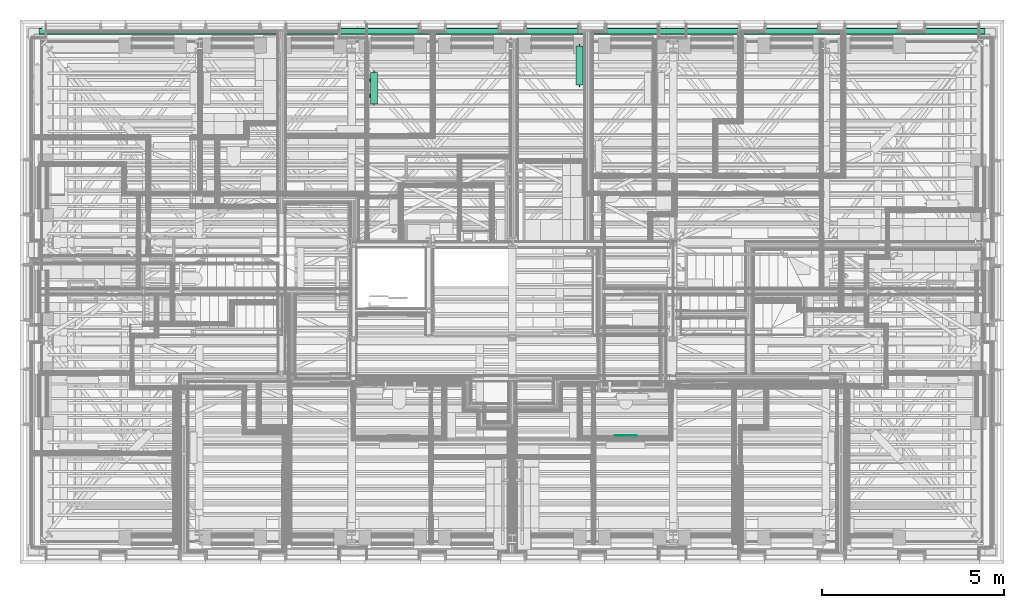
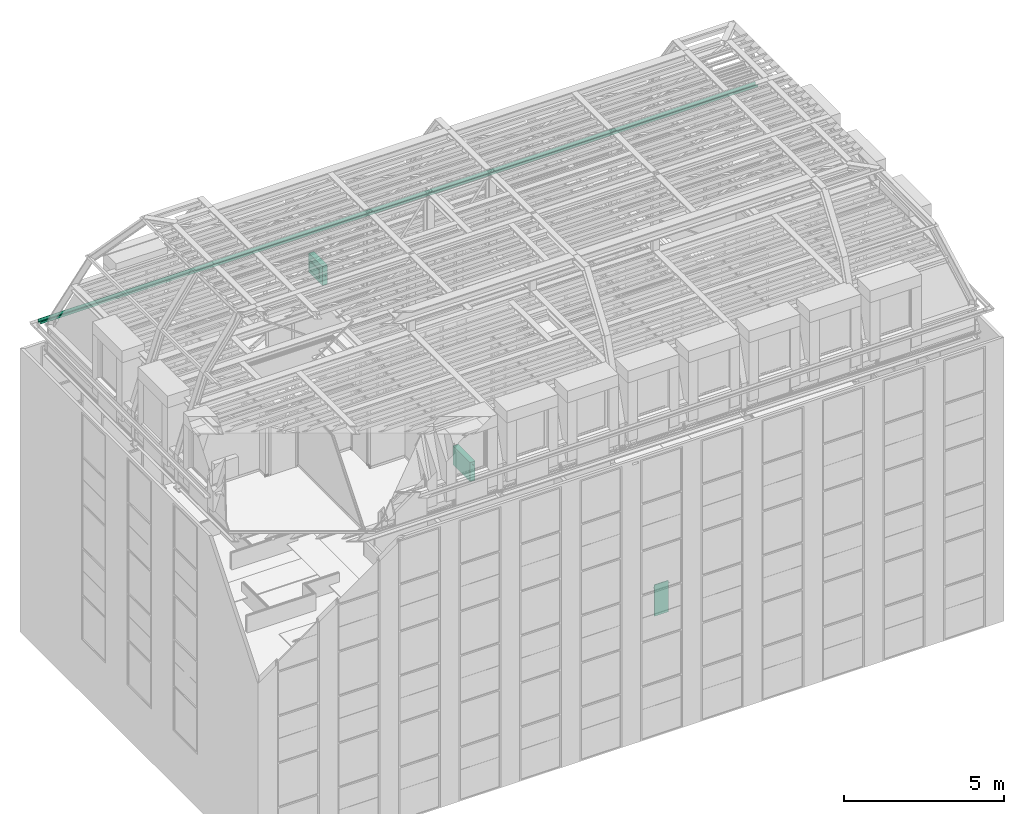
# One storey, part 164 of 183: 3 flow terminals, 1 flow fitting.
"""IFC2X3 building model written with IfcOpenShell, lengths in metres."""

from ifc_helpers import new_model, entity, si_unit, converted_unit, derived_unit, money_unit, direction, frame, origin_with_axes, place, context, subcontext, project, spatial, open_shell, faceted_brep, surface_model, material, type_object, element, save


model = new_model("IFC2X3")

# Units and contexts
model_context = context("Model", 3, precision=1e-05, world=origin_with_axes(), true_north=direction((0.0, 1.0)))
body_context = subcontext(model_context, "Body", "Model", "MODEL_VIEW", scale=1.0)
ifc_project = project(units=[si_unit("LENGTHUNIT", "METRE"), si_unit("AREAUNIT", "SQUARE_METRE"), si_unit("VOLUMEUNIT", "CUBIC_METRE"), si_unit("ABSORBEDDOSEUNIT", "GRAY"), si_unit("AMOUNTOFSUBSTANCEUNIT", "MOLE"), si_unit("DOSEEQUIVALENTUNIT", "SIEVERT"), si_unit("ELECTRICCAPACITANCEUNIT", "FARAD"), si_unit("ELECTRICCHARGEUNIT", "COULOMB"), si_unit("ELECTRICCONDUCTANCEUNIT", "SIEMENS"), si_unit("ELECTRICCURRENTUNIT", "AMPERE"), si_unit("ELECTRICRESISTANCEUNIT", "OHM"), si_unit("ELECTRICVOLTAGEUNIT", "VOLT"), si_unit("ENERGYUNIT", "JOULE"), si_unit("FORCEUNIT", "NEWTON"), si_unit("FREQUENCYUNIT", "HERTZ"), si_unit("ILLUMINANCEUNIT", "LUX"), si_unit("INDUCTANCEUNIT", "HENRY"), si_unit("LUMINOUSFLUXUNIT", "LUMEN"), si_unit("LUMINOUSINTENSITYUNIT", "CANDELA"), si_unit("MAGNETICFLUXDENSITYUNIT", "TESLA"), si_unit("MAGNETICFLUXUNIT", "WEBER"), si_unit("MASSUNIT", "GRAM"), converted_unit("PLANEANGLEUNIT", "degree", entity("IfcReal", 0.0174532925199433), si_unit("PLANEANGLEUNIT", "RADIAN"), dimensions=[0, 0, 0, 0, 0, 0, 0]), si_unit("POWERUNIT", "WATT"), si_unit("PRESSUREUNIT", "PASCAL"), si_unit("RADIOACTIVITYUNIT", "BECQUEREL"), si_unit("SOLIDANGLEUNIT", "STERADIAN"), si_unit("THERMODYNAMICTEMPERATUREUNIT", "KELVIN"), si_unit("TIMEUNIT", "SECOND"), derived_unit("ACCELERATIONUNIT", [(si_unit("LENGTHUNIT", "METRE"), 1), (si_unit("TIMEUNIT", "SECOND"), -2)]), derived_unit("ANGULARVELOCITYUNIT", [(converted_unit("PLANEANGLEUNIT", "degree", entity("IfcReal", 0.0174532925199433), si_unit("PLANEANGLEUNIT", "RADIAN"), dimensions=[0, 0, 0, 0, 0, 0, 0]), 1), (si_unit("TIMEUNIT", "SECOND"), -1)]), derived_unit("CURVATUREUNIT", [(converted_unit("PLANEANGLEUNIT", "degree", entity("IfcReal", 0.0174532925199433), si_unit("PLANEANGLEUNIT", "RADIAN"), dimensions=[0, 0, 0, 0, 0, 0, 0]), 1), (si_unit("LENGTHUNIT", "METRE"), -1)]), derived_unit("DYNAMICVISCOSITYUNIT", [(si_unit("PRESSUREUNIT", "PASCAL"), 1), (si_unit("TIMEUNIT", "SECOND"), 1)]), derived_unit("HEATFLUXDENSITYUNIT", [(si_unit("POWERUNIT", "WATT"), 1), (si_unit("LENGTHUNIT", "METRE"), -2)]), derived_unit("HEATINGVALUEUNIT", [(si_unit("ENERGYUNIT", "JOULE"), 1), (si_unit("MASSUNIT", "GRAM"), -1)]), derived_unit("INTEGERCOUNTRATEUNIT", [(si_unit("TIMEUNIT", "SECOND"), -1)]), derived_unit("IONCONCENTRATIONUNIT", [(si_unit("MASSUNIT", "GRAM"), 1), (si_unit("VOLUMEUNIT", "CUBIC_METRE"), -1)]), derived_unit("ISOTHERMALMOISTURECAPACITYUNIT", [(si_unit("VOLUMEUNIT", "CUBIC_METRE"), 1), (si_unit("MASSUNIT", "GRAM"), -1)]), derived_unit("KINEMATICVISCOSITYUNIT", [(si_unit("AREAUNIT", "SQUARE_METRE"), 1), (si_unit("TIMEUNIT", "SECOND"), -1)]), derived_unit("LINEARFORCEUNIT", [(si_unit("FORCEUNIT", "NEWTON"), 1), (si_unit("LENGTHUNIT", "METRE"), -1)]), derived_unit("LINEARMOMENTUNIT", [(si_unit("FORCEUNIT", "NEWTON"), 1), (si_unit("LENGTHUNIT", "METRE"), -1)]), derived_unit("LINEARSTIFFNESSUNIT", [(si_unit("FORCEUNIT", "NEWTON"), 1), (si_unit("LENGTHUNIT", "METRE"), -1)]), derived_unit("LINEARVELOCITYUNIT", [(si_unit("LENGTHUNIT", "METRE"), 1), (si_unit("TIMEUNIT", "SECOND"), -1)]), derived_unit("LUMINOUSINTENSITYDISTRIBUTIONUNIT", [(si_unit("LUMINOUSINTENSITYUNIT", "CANDELA"), 1), (si_unit("LUMINOUSFLUXUNIT", "LUMEN"), -1)]), derived_unit("MASSDENSITYUNIT", [(si_unit("MASSUNIT", "GRAM"), 1), (si_unit("VOLUMEUNIT", "CUBIC_METRE"), -1)]), derived_unit("MASSFLOWRATEUNIT", [(si_unit("MASSUNIT", "GRAM"), 1), (si_unit("TIMEUNIT", "SECOND"), -1)]), derived_unit("MASSPERLENGTHUNIT", [(si_unit("MASSUNIT", "GRAM"), 1), (si_unit("LENGTHUNIT", "METRE"), -1)]), derived_unit("MODULUSOFELASTICITYUNIT", [(si_unit("FORCEUNIT", "NEWTON"), 1), (si_unit("AREAUNIT", "SQUARE_METRE"), -1)]), derived_unit("MODULUSOFLINEARSUBGRADEREACTIONUNIT", [(si_unit("FORCEUNIT", "NEWTON"), 1), (si_unit("LENGTHUNIT", "METRE"), -2)]), derived_unit("MODULUSOFROTATIONALSUBGRADEREACTIONUNIT", [(si_unit("FORCEUNIT", "NEWTON"), 1), (si_unit("LENGTHUNIT", "METRE"), 1)]), derived_unit("MODULUSOFSUBGRADEREACTIONUNIT", [(si_unit("FORCEUNIT", "NEWTON"), 1), (si_unit("VOLUMEUNIT", "CUBIC_METRE"), -1)]), derived_unit("MOISTUREDIFFUSIVITYUNIT", [(si_unit("VOLUMEUNIT", "CUBIC_METRE"), 1), (si_unit("TIMEUNIT", "SECOND"), -1)]), derived_unit("MOLECULARWEIGHTUNIT", [(si_unit("MASSUNIT", "GRAM"), 1), (si_unit("AMOUNTOFSUBSTANCEUNIT", "MOLE"), -1)]), derived_unit("PLANARFORCEUNIT", [(si_unit("FORCEUNIT", "NEWTON"), 1), (si_unit("LENGTHUNIT", "METRE"), -2)]), derived_unit("ROTATIONALFREQUENCYUNIT", [(si_unit("TIMEUNIT", "SECOND"), -1)]), derived_unit("ROTATIONALMASSUNIT", [(si_unit("MASSUNIT", "GRAM"), 1), (si_unit("LENGTHUNIT", "METRE"), 2)]), derived_unit("ROTATIONALSTIFFNESSUNIT", [(si_unit("FORCEUNIT", "NEWTON"), 1), (si_unit("LENGTHUNIT", "METRE"), 1), (converted_unit("PLANEANGLEUNIT", "degree", entity("IfcReal", 0.0174532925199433), si_unit("PLANEANGLEUNIT", "RADIAN"), dimensions=[0, 0, 0, 0, 0, 0, 0]), -1)]), derived_unit("SECTIONAREAINTEGRALUNIT", [(si_unit("LENGTHUNIT", "METRE"), 5)]), derived_unit("SECTIONMODULUSUNIT", [(si_unit("LENGTHUNIT", "METRE"), 3)]), derived_unit("SHEARMODULUSUNIT", [(si_unit("FORCEUNIT", "NEWTON"), 1), (si_unit("AREAUNIT", "SQUARE_METRE"), -1)]), derived_unit("SOUNDPOWERUNIT", [(si_unit("ENERGYUNIT", "JOULE"), 1), (si_unit("TIMEUNIT", "SECOND"), -1)]), derived_unit("SPECIFICHEATCAPACITYUNIT", [(si_unit("FORCEUNIT", "NEWTON"), 1), (si_unit("MASSUNIT", "GRAM"), -1), (si_unit("THERMODYNAMICTEMPERATUREUNIT", "KELVIN"), -1)]), derived_unit("TEMPERATUREGRADIENTUNIT", [(si_unit("THERMODYNAMICTEMPERATUREUNIT", "KELVIN"), 1), (si_unit("LENGTHUNIT", "METRE"), -1)]), derived_unit("THERMALADMITTANCEUNIT", [(si_unit("POWERUNIT", "WATT"), 1), (si_unit("AREAUNIT", "SQUARE_METRE"), -1), (si_unit("THERMODYNAMICTEMPERATUREUNIT", "KELVIN"), -1)]), derived_unit("THERMALCONDUCTANCEUNIT", [(si_unit("POWERUNIT", "WATT"), 1), (si_unit("LENGTHUNIT", "METRE"), -1), (si_unit("THERMODYNAMICTEMPERATUREUNIT", "KELVIN"), -1)]), derived_unit("THERMALEXPANSIONCOEFFICIENTUNIT", [(si_unit("THERMODYNAMICTEMPERATUREUNIT", "KELVIN"), -1)]), derived_unit("THERMALRESISTANCEUNIT", [(si_unit("AREAUNIT", "SQUARE_METRE"), 1), (si_unit("POWERUNIT", "WATT"), -1)]), derived_unit("THERMALTRANSMITTANCEUNIT", [(si_unit("POWERUNIT", "WATT"), 1), (si_unit("AREAUNIT", "SQUARE_METRE"), -1), (si_unit("THERMODYNAMICTEMPERATUREUNIT", "KELVIN"), -1)]), derived_unit("TORQUEUNIT", [(si_unit("FORCEUNIT", "NEWTON"), 1), (si_unit("LENGTHUNIT", "METRE"), 1)]), derived_unit("VAPORPERMEABILITYUNIT", [(si_unit("MASSUNIT", "GRAM"), 1), (si_unit("TIMEUNIT", "SECOND"), -1)]), derived_unit("VOLUMETRICFLOWRATEUNIT", [(si_unit("VOLUMEUNIT", "CUBIC_METRE"), 1), (si_unit("TIMEUNIT", "SECOND"), -1)]), derived_unit("WARPINGCONSTANTUNIT", [(si_unit("LENGTHUNIT", "METRE"), 6)]), derived_unit("WARPINGMOMENTUNIT", [(si_unit("FORCEUNIT", "NEWTON"), 1), (si_unit("LENGTHUNIT", "METRE"), 2)]), money_unit("GBP")], contexts=[model_context])

# Site, building, storey
site_placement = place(None, origin_with_axes())
site = spatial("IfcSite", under=ifc_project, at=site_placement, Name="Site", CompositionType="ELEMENT")
building_placement = place(site_placement, origin_with_axes())
building = spatial("IfcBuilding", under=site, at=building_placement, Name="Building01", CompositionType="ELEMENT")
storey_placement = place(building_placement, frame((0.0, 0.0, 5.15), z_axis=(0.0, 0.0, 1.0), x_axis=(1.0, 0.0, 0.0)))
storey = spatial("IfcBuildingStorey", under=building, at=storey_placement, Name="1F", CompositionType="ELEMENT", Elevation=5.15)

# Flow fitting
ifc_material_1 = material(Name="A_BSUK_RainwaterDrainageSystems")
pipe_fitting_type = type_object("IfcPipeFittingType", Name="A-RainwaterDrainageSystems-GutterStraight", PredefinedType="NOTDEFINED")
flow_fitting_placement = place(storey_placement, frame((0.514653, 14.496848, 10.629268), z_axis=(0.0, 0.0, 1.0), x_axis=(1.0, 0.0, 0.0)))
element("IfcFlowFitting", 1, at=flow_fitting_placement, inside=storey, type_object=pipe_fitting_type, material=ifc_material_1, Name="A-RainwaterDrainageSystems-GutterStraight", ObjectType="A-RainwaterDrainageSystems-GutterStraight", context=body_context, shape_type="Brep", body=[
    faceted_brep([(25.951001, 0.0, 0.100732), (1e-06, 0.0, 0.100732), (1e-06, 0.0, 0.099144), (25.951001, 0.0, 0.099145), (25.951001, 0.005654, 0.099145), (1e-06, 0.005654, 0.099144), (1e-06, 0.018707, 0.0), (25.951001, 0.018707, 0.0), (1e-06, 0.170099, 0.0), (25.951001, 0.170099, 0.0), (1e-06, 0.183152, 0.099144), (25.951001, 0.183152, 0.099145), (1e-06, 0.188806, 0.099144), (25.951001, 0.188806, 0.099145), (1e-06, 0.188806, 0.100732), (25.951001, 0.188806, 0.100732), (1e-06, 0.18176, 0.100732), (25.951001, 0.18176, 0.100732), (1e-06, 0.168707, 0.001588), (25.951001, 0.168707, 0.001588), (1e-06, 0.020099, 0.001588), (25.951001, 0.020099, 0.001588), (1e-06, 0.007047, 0.100732), (25.951001, 0.007047, 0.100732)], [[[0, 1, 2, 3]], [[4, 5, 6, 7]], [[7, 6, 8, 9]], [[9, 8, 10, 11]], [[11, 10, 12, 13]], [[13, 12, 14, 15]], [[15, 14, 16, 17]], [[17, 16, 18, 19]], [[19, 18, 20, 21]], [[21, 20, 22, 23]], [[23, 22, 1, 0]], [[3, 4, 7, 9, 11, 13, 15, 17, 19, 21, 23, 0]], [[3, 2, 5, 4]], [[1, 22, 20, 18, 16, 14, 12, 10, 8, 6, 5, 2]]]),
])

# Space
space_1_placement = place(storey_placement, frame((11.375, 10.415, 0.017975), z_axis=(0.0, 0.0, 1.0), x_axis=(1.0, 0.0, 0.0)))
space_1 = spatial("IfcSpace", under=storey, at=space_1_placement, Name="k/d/l", CompositionType="ELEMENT", InteriorOrExteriorSpace="NOTDEFINED")

# Flow terminal
ifc_material_2 = material(Name="M_BSUK_Ventilation")
space_heater_type_1 = type_object("IfcSpaceHeaterType", Name="M-BmvRadiatorpanel-Panel", PredefinedType="NOTDEFINED")
flow_terminal_1_placement = place(storey_placement, frame((15.337882, 14.187, 0.665), z_axis=(0.0, 0.0, 1.0), x_axis=(0.0, -1.0, 0.0)))
element("IfcFlowTerminal", 2, at=flow_terminal_1_placement, inside=space_1, type_object=space_heater_type_1, material=ifc_material_2, Name="M-BmvRadiatorpanel-Panel", ObjectType="M-BmvRadiatorpanel-Panel", context=body_context, shape_type="SurfaceModel", body=[
    surface_model("IfcShellBasedSurfaceModel", [(1.069, -0.0925, 0.365), (1.069, 0.0925, 0.365), (0.0, 0.0925, 0.365), (0.0, -0.0925, 0.365), (1.069, -0.0925, -0.365), (1.069, 0.0925, -0.365), (0.0, -0.0925, -0.365), (0.0, 0.0925, -0.365), (0.2345, 0.12025, 0.175), (0.8345, 0.12025, 0.175), (0.8345, 0.14525, 0.175), (0.2345, 0.14525, 0.175), (0.8345, 0.14525, -0.175), (0.2345, 0.14525, -0.175), (0.8345, 0.12025, -0.175), (0.2345, 0.12025, -0.175), (0.3245, 0.0925, 0.0775), (0.3245, 0.12025, 0.0775), (0.341721, 0.12025, 0.080925), (0.341721, 0.0925, 0.080925), (0.35632, 0.12025, 0.09068), (0.35632, 0.0925, 0.09068), (0.366075, 0.12025, 0.105279), (0.366075, 0.0925, 0.105279), (0.3695, 0.12025, 0.1225), (0.3695, 0.0925, 0.1225), (0.366075, 0.12025, 0.139721), (0.366075, 0.0925, 0.139721), (0.35632, 0.12025, 0.15432), (0.35632, 0.0925, 0.15432), (0.341721, 0.12025, 0.164075), (0.341721, 0.0925, 0.164075), (0.3245, 0.12025, 0.1675), (0.3245, 0.0925, 0.1675), (0.307279, 0.12025, 0.164075), (0.307279, 0.0925, 0.164075), (0.29268, 0.12025, 0.15432), (0.29268, 0.0925, 0.15432), (0.282925, 0.12025, 0.139721), (0.282925, 0.0925, 0.139721), (0.2795, 0.12025, 0.1225), (0.2795, 0.0925, 0.1225), (0.282925, 0.12025, 0.105279), (0.282925, 0.0925, 0.105279), (0.29268, 0.12025, 0.09068), (0.29268, 0.0925, 0.09068), (0.307279, 0.12025, 0.080925), (0.307279, 0.0925, 0.080925), (0.7445, 0.0925, 0.0775), (0.7445, 0.12025, 0.0775), (0.761721, 0.12025, 0.080925), (0.761721, 0.0925, 0.080925), (0.77632, 0.12025, 0.09068), (0.77632, 0.0925, 0.09068), (0.786075, 0.12025, 0.105279), (0.786075, 0.0925, 0.105279), (0.7895, 0.12025, 0.1225), (0.7895, 0.0925, 0.1225), (0.786075, 0.12025, 0.139721), (0.786075, 0.0925, 0.139721), (0.77632, 0.12025, 0.15432), (0.77632, 0.0925, 0.15432), (0.761721, 0.12025, 0.164075), (0.761721, 0.0925, 0.164075), (0.7445, 0.12025, 0.1675), (0.7445, 0.0925, 0.1675), (0.727279, 0.12025, 0.164075), (0.727279, 0.0925, 0.164075), (0.71268, 0.12025, 0.15432), (0.71268, 0.0925, 0.15432), (0.702925, 0.12025, 0.139721), (0.702925, 0.0925, 0.139721), (0.6995, 0.12025, 0.1225), (0.6995, 0.0925, 0.1225), (0.702925, 0.12025, 0.105279), (0.702925, 0.0925, 0.105279), (0.71268, 0.12025, 0.09068), (0.71268, 0.0925, 0.09068), (0.727279, 0.12025, 0.080925), (0.727279, 0.0925, 0.080925), (-0.05, 0.0, -0.0225), (0.0, 0.0, -0.0225), (0.0, -0.004784, -0.021548), (-0.05, -0.004784, -0.021548), (0.0, -0.008839, -0.018839), (-0.05, -0.008839, -0.018839), (0.0, -0.011548, -0.014784), (-0.05, -0.011548, -0.014784), (0.0, -0.0125, -0.01), (-0.05, -0.0125, -0.01), (0.0, -0.011548, -0.005216), (-0.05, -0.011548, -0.005216), (0.0, -0.008839, -0.001161), (-0.05, -0.008839, -0.001161), (0.0, -0.004784, 0.001548), (-0.05, -0.004784, 0.001548), (0.0, 0.0, 0.0025), (-0.05, 0.0, 0.0025), (0.0, 0.004784, 0.001548), (-0.05, 0.004784, 0.001548), (0.0, 0.008839, -0.001161), (-0.05, 0.008839, -0.001161), (0.0, 0.011548, -0.005216), (-0.05, 0.011548, -0.005216), (0.0, 0.0125, -0.01), (-0.05, 0.0125, -0.01), (0.0, 0.011548, -0.014784), (-0.05, 0.011548, -0.014784), (0.0, 0.008839, -0.018839), (-0.05, 0.008839, -0.018839), (0.0, 0.004784, -0.021548), (-0.05, 0.004784, -0.021548), (1.119, 0.0, 0.2525), (1.069, 0.0, 0.2525), (1.069, 0.004784, 0.253452), (1.119, 0.004784, 0.253452), (1.069, 0.008839, 0.256161), (1.119, 0.008839, 0.256161), (1.069, 0.011548, 0.260216), (1.119, 0.011548, 0.260216), (1.069, 0.0125, 0.265), (1.119, 0.0125, 0.265), (1.069, 0.011548, 0.269784), (1.119, 0.011548, 0.269784), (1.069, 0.008839, 0.273839), (1.119, 0.008839, 0.273839), (1.069, 0.004784, 0.276548), (1.119, 0.004784, 0.276548), (1.069, 0.0, 0.2775), (1.119, 0.0, 0.2775), (1.069, -0.004784, 0.276548), (1.119, -0.004784, 0.276548), (1.069, -0.008839, 0.273839), (1.119, -0.008839, 0.273839), (1.069, -0.011548, 0.269784), (1.119, -0.011548, 0.269784), (1.069, -0.0125, 0.265), (1.119, -0.0125, 0.265), (1.069, -0.011548, 0.260216), (1.119, -0.011548, 0.260216), (1.069, -0.008839, 0.256161), (1.119, -0.008839, 0.256161), (1.069, -0.004784, 0.253452), (1.119, -0.004784, 0.253452)], [open_shell([[[0, 1, 2, 3]], [[4, 5, 1, 0]], [[6, 7, 5, 4]], [[3, 2, 7, 6]], [[1, 5, 7, 2]], [[3, 6, 4, 0]], [[8, 9, 10, 11]], [[11, 10, 12, 13]], [[13, 12, 14, 15]], [[15, 14, 9, 8]], [[9, 14, 12, 10]], [[11, 13, 15, 8]], [[16, 17, 18, 19]], [[19, 18, 20, 21]], [[21, 20, 22, 23]], [[23, 22, 24, 25]], [[25, 24, 26, 27]], [[27, 26, 28, 29]], [[29, 28, 30, 31]], [[31, 30, 32, 33]], [[33, 32, 34, 35]], [[35, 34, 36, 37]], [[37, 36, 38, 39]], [[39, 38, 40, 41]], [[41, 40, 42, 43]], [[43, 42, 44, 45]], [[45, 44, 46, 47]], [[47, 46, 17, 16]], [[48, 49, 50, 51]], [[51, 50, 52, 53]], [[53, 52, 54, 55]], [[55, 54, 56, 57]], [[57, 56, 58, 59]], [[59, 58, 60, 61]], [[61, 60, 62, 63]], [[63, 62, 64, 65]], [[65, 64, 66, 67]], [[67, 66, 68, 69]], [[69, 68, 70, 71]], [[71, 70, 72, 73]], [[73, 72, 74, 75]], [[75, 74, 76, 77]], [[77, 76, 78, 79]], [[79, 78, 49, 48]], [[80, 81, 82, 83]], [[83, 82, 84, 85]], [[85, 84, 86, 87]], [[87, 86, 88, 89]], [[89, 88, 90, 91]], [[91, 90, 92, 93]], [[93, 92, 94, 95]], [[95, 94, 96, 97]], [[97, 96, 98, 99]], [[99, 98, 100, 101]], [[101, 100, 102, 103]], [[103, 102, 104, 105]], [[105, 104, 106, 107]], [[107, 106, 108, 109]], [[109, 108, 110, 111]], [[111, 110, 81, 80]], [[112, 113, 114, 115]], [[115, 114, 116, 117]], [[117, 116, 118, 119]], [[119, 118, 120, 121]], [[121, 120, 122, 123]], [[123, 122, 124, 125]], [[125, 124, 126, 127]], [[127, 126, 128, 129]], [[129, 128, 130, 131]], [[131, 130, 132, 133]], [[133, 132, 134, 135]], [[135, 134, 136, 137]], [[137, 136, 138, 139]], [[139, 138, 140, 141]], [[141, 140, 142, 143]], [[143, 142, 113, 112]]])]),
])

# Space
space_2_placement = place(storey_placement, frame((1.009939, 13.890379, 9.81), z_axis=(0.0, 0.0, 1.0), x_axis=(0.0, -1.0, 0.0)))
space_2 = spatial("IfcSpace", under=storey, at=space_2_placement, Name="26", CompositionType="ELEMENT", InteriorOrExteriorSpace="NOTDEFINED")

# Flow terminal
flow_terminal_2_placement = place(storey_placement, frame((9.705274, 12.601764, 10.445), z_axis=(0.0, 0.0, 1.0), x_axis=(0.0, 1.0, 0.0)))
element("IfcFlowTerminal", 3, at=flow_terminal_2_placement, inside=space_2, type_object=space_heater_type_1, material=ifc_material_2, Name="M-BmvRadiatorpanel-Panel", ObjectType="M-BmvRadiatorpanel-Panel", context=body_context, shape_type="SurfaceModel", body=[
    surface_model("IfcShellBasedSurfaceModel", [(0.865, -0.0925, 0.365), (0.865, 0.0925, 0.365), (0.0, 0.0925, 0.365), (0.0, -0.0925, 0.365), (0.865, -0.0925, -0.365), (0.865, 0.0925, -0.365), (0.0, -0.0925, -0.365), (0.0, 0.0925, -0.365), (0.1325, 0.12025, 0.175), (0.7325, 0.12025, 0.175), (0.7325, 0.14525, 0.175), (0.1325, 0.14525, 0.175), (0.7325, 0.14525, -0.175), (0.1325, 0.14525, -0.175), (0.7325, 0.12025, -0.175), (0.1325, 0.12025, -0.175), (0.2225, 0.0925, 0.0775), (0.2225, 0.12025, 0.0775), (0.239721, 0.12025, 0.080925), (0.239721, 0.0925, 0.080925), (0.25432, 0.12025, 0.09068), (0.25432, 0.0925, 0.09068), (0.264075, 0.12025, 0.105279), (0.264075, 0.0925, 0.105279), (0.2675, 0.12025, 0.1225), (0.2675, 0.0925, 0.1225), (0.264075, 0.12025, 0.139721), (0.264075, 0.0925, 0.139721), (0.25432, 0.12025, 0.15432), (0.25432, 0.0925, 0.15432), (0.239721, 0.12025, 0.164075), (0.239721, 0.0925, 0.164075), (0.2225, 0.12025, 0.1675), (0.2225, 0.0925, 0.1675), (0.205279, 0.12025, 0.164075), (0.205279, 0.0925, 0.164075), (0.19068, 0.12025, 0.15432), (0.19068, 0.0925, 0.15432), (0.180925, 0.12025, 0.139721), (0.180925, 0.0925, 0.139721), (0.1775, 0.12025, 0.1225), (0.1775, 0.0925, 0.1225), (0.180925, 0.12025, 0.105279), (0.180925, 0.0925, 0.105279), (0.19068, 0.12025, 0.09068), (0.19068, 0.0925, 0.09068), (0.205279, 0.12025, 0.080925), (0.205279, 0.0925, 0.080925), (0.6425, 0.0925, 0.0775), (0.6425, 0.12025, 0.0775), (0.659721, 0.12025, 0.080925), (0.659721, 0.0925, 0.080925), (0.67432, 0.12025, 0.09068), (0.67432, 0.0925, 0.09068), (0.684075, 0.12025, 0.105279), (0.684075, 0.0925, 0.105279), (0.6875, 0.12025, 0.1225), (0.6875, 0.0925, 0.1225), (0.684075, 0.12025, 0.139721), (0.684075, 0.0925, 0.139721), (0.67432, 0.12025, 0.15432), (0.67432, 0.0925, 0.15432), (0.659721, 0.12025, 0.164075), (0.659721, 0.0925, 0.164075), (0.6425, 0.12025, 0.1675), (0.6425, 0.0925, 0.1675), (0.625279, 0.12025, 0.164075), (0.625279, 0.0925, 0.164075), (0.61068, 0.12025, 0.15432), (0.61068, 0.0925, 0.15432), (0.600925, 0.12025, 0.139721), (0.600925, 0.0925, 0.139721), (0.5975, 0.12025, 0.1225), (0.5975, 0.0925, 0.1225), (0.600925, 0.12025, 0.105279), (0.600925, 0.0925, 0.105279), (0.61068, 0.12025, 0.09068), (0.61068, 0.0925, 0.09068), (0.625279, 0.12025, 0.080925), (0.625279, 0.0925, 0.080925), (-0.05, 0.0, -0.0225), (0.0, 0.0, -0.0225), (0.0, -0.004784, -0.021548), (-0.05, -0.004784, -0.021548), (0.0, -0.008839, -0.018839), (-0.05, -0.008839, -0.018839), (0.0, -0.011548, -0.014784), (-0.05, -0.011548, -0.014784), (0.0, -0.0125, -0.01), (-0.05, -0.0125, -0.01), (0.0, -0.011548, -0.005216), (-0.05, -0.011548, -0.005216), (0.0, -0.008839, -0.001161), (-0.05, -0.008839, -0.001161), (0.0, -0.004784, 0.001548), (-0.05, -0.004784, 0.001548), (0.0, 0.0, 0.0025), (-0.05, 0.0, 0.0025), (0.0, 0.004784, 0.001548), (-0.05, 0.004784, 0.001548), (0.0, 0.008839, -0.001161), (-0.05, 0.008839, -0.001161), (0.0, 0.011548, -0.005216), (-0.05, 0.011548, -0.005216), (0.0, 0.0125, -0.01), (-0.05, 0.0125, -0.01), (0.0, 0.011548, -0.014784), (-0.05, 0.011548, -0.014784), (0.0, 0.008839, -0.018839), (-0.05, 0.008839, -0.018839), (0.0, 0.004784, -0.021548), (-0.05, 0.004784, -0.021548), (0.915, 0.0, 0.2525), (0.865, 0.0, 0.2525), (0.865, 0.004784, 0.253452), (0.915, 0.004784, 0.253452), (0.865, 0.008839, 0.256161), (0.915, 0.008839, 0.256161), (0.865, 0.011548, 0.260216), (0.915, 0.011548, 0.260216), (0.865, 0.0125, 0.265), (0.915, 0.0125, 0.265), (0.865, 0.011548, 0.269784), (0.915, 0.011548, 0.269784), (0.865, 0.008839, 0.273839), (0.915, 0.008839, 0.273839), (0.865, 0.004784, 0.276548), (0.915, 0.004784, 0.276548), (0.865, 0.0, 0.2775), (0.915, 0.0, 0.2775), (0.865, -0.004784, 0.276548), (0.915, -0.004784, 0.276548), (0.865, -0.008839, 0.273839), (0.915, -0.008839, 0.273839), (0.865, -0.011548, 0.269784), (0.915, -0.011548, 0.269784), (0.865, -0.0125, 0.265), (0.915, -0.0125, 0.265), (0.865, -0.011548, 0.260216), (0.915, -0.011548, 0.260216), (0.865, -0.008839, 0.256161), (0.915, -0.008839, 0.256161), (0.865, -0.004784, 0.253452), (0.915, -0.004784, 0.253452)], [open_shell([[[0, 1, 2, 3]], [[4, 5, 1, 0]], [[6, 7, 5, 4]], [[3, 2, 7, 6]], [[1, 5, 7, 2]], [[3, 6, 4, 0]], [[8, 9, 10, 11]], [[11, 10, 12, 13]], [[13, 12, 14, 15]], [[15, 14, 9, 8]], [[9, 14, 12, 10]], [[11, 13, 15, 8]], [[16, 17, 18, 19]], [[19, 18, 20, 21]], [[21, 20, 22, 23]], [[23, 22, 24, 25]], [[25, 24, 26, 27]], [[27, 26, 28, 29]], [[29, 28, 30, 31]], [[31, 30, 32, 33]], [[33, 32, 34, 35]], [[35, 34, 36, 37]], [[37, 36, 38, 39]], [[39, 38, 40, 41]], [[41, 40, 42, 43]], [[43, 42, 44, 45]], [[45, 44, 46, 47]], [[47, 46, 17, 16]], [[48, 49, 50, 51]], [[51, 50, 52, 53]], [[53, 52, 54, 55]], [[55, 54, 56, 57]], [[57, 56, 58, 59]], [[59, 58, 60, 61]], [[61, 60, 62, 63]], [[63, 62, 64, 65]], [[65, 64, 66, 67]], [[67, 66, 68, 69]], [[69, 68, 70, 71]], [[71, 70, 72, 73]], [[73, 72, 74, 75]], [[75, 74, 76, 77]], [[77, 76, 78, 79]], [[79, 78, 49, 48]], [[80, 81, 82, 83]], [[83, 82, 84, 85]], [[85, 84, 86, 87]], [[87, 86, 88, 89]], [[89, 88, 90, 91]], [[91, 90, 92, 93]], [[93, 92, 94, 95]], [[95, 94, 96, 97]], [[97, 96, 98, 99]], [[99, 98, 100, 101]], [[101, 100, 102, 103]], [[103, 102, 104, 105]], [[105, 104, 106, 107]], [[107, 106, 108, 109]], [[109, 108, 110, 111]], [[111, 110, 81, 80]], [[112, 113, 114, 115]], [[115, 114, 116, 117]], [[117, 116, 118, 119]], [[119, 118, 120, 121]], [[121, 120, 122, 123]], [[123, 122, 124, 125]], [[125, 124, 126, 127]], [[127, 126, 128, 129]], [[129, 128, 130, 131]], [[131, 130, 132, 133]], [[133, 132, 134, 135]], [[135, 134, 136, 137]], [[137, 136, 138, 139]], [[139, 138, 140, 141]], [[141, 140, 142, 143]], [[143, 142, 113, 112]]])]),
])

# Space
space_3_placement = place(storey_placement, frame((17.8075, 4.98, 0.017975), z_axis=(0.0, 0.0, 1.0), x_axis=(-1.0, 0.0, 0.0)))
space_3 = spatial("IfcSpace", under=storey, at=space_3_placement, Name="bath", CompositionType="ELEMENT", InteriorOrExteriorSpace="NOTDEFINED")

# Flow terminal
space_heater_type_2 = type_object("IfcSpaceHeaterType", Name="M-BmvRadiator-Column", PredefinedType="NOTDEFINED")
flow_terminal_3_placement = place(storey_placement, frame((16.3575, 3.5075, 1.2), z_axis=(0.0, 0.0, 1.0), x_axis=(1.0, 0.0, 0.0)))
element("IfcFlowTerminal", 4, at=flow_terminal_3_placement, inside=space_3, type_object=space_heater_type_2, material=ifc_material_2, Name="M-BmvRadiator-Column", ObjectType="M-BmvRadiator-Column", context=body_context, shape_type="SurfaceModel", body=[
    surface_model("IfcShellBasedSurfaceModel", [(0.0, -0.0125, 0.6), (0.0, -0.0125, -0.6), (0.0, 0.0125, -0.6), (0.0, 0.0125, 0.6), (0.5, -0.0125, 0.6), (0.5, -0.0125, -0.6), (0.5, 0.0125, -0.6), (0.5, 0.0125, 0.6), (0.1, 0.0125, 0.6), (0.1, -0.0125, 0.6), (0.1, -0.0125, -0.6), (0.1, 0.0125, -0.6), (0.2, 0.0125, 0.6), (0.2, -0.0125, 0.6), (0.2, -0.0125, -0.6), (0.2, 0.0125, -0.6), (0.3, 0.0125, 0.6), (0.3, -0.0125, 0.6), (0.3, -0.0125, -0.6), (0.3, 0.0125, -0.6), (0.4, 0.0125, 0.6), (0.4, -0.0125, 0.6), (0.4, -0.0125, -0.6), (0.4, 0.0125, -0.6), (-0.05, 0.0, 0.4825), (0.0, 0.0, 0.4825), (0.0, -0.003827, 0.483261), (-0.05, -0.003827, 0.483261), (0.0, -0.007071, 0.485429), (-0.05, -0.007071, 0.485429), (0.0, -0.009239, 0.488673), (-0.05, -0.009239, 0.488673), (0.0, -0.01, 0.4925), (-0.05, -0.01, 0.4925), (0.0, -0.009239, 0.496327), (-0.05, -0.009239, 0.496327), (0.0, -0.007071, 0.499571), (-0.05, -0.007071, 0.499571), (0.0, -0.003827, 0.501739), (-0.05, -0.003827, 0.501739), (0.0, 0.0, 0.5025), (-0.05, 0.0, 0.5025), (0.0, 0.003827, 0.501739), (-0.05, 0.003827, 0.501739), (0.0, 0.007071, 0.499571), (-0.05, 0.007071, 0.499571), (0.0, 0.009239, 0.496327), (-0.05, 0.009239, 0.496327), (0.0, 0.01, 0.4925), (-0.05, 0.01, 0.4925), (0.0, 0.009239, 0.488673), (-0.05, 0.009239, 0.488673), (0.0, 0.007071, 0.485429), (-0.05, 0.007071, 0.485429), (0.0, 0.003827, 0.483261), (-0.05, 0.003827, 0.483261), (0.55, 0.0, 0.4884), (0.5, 0.0, 0.4884), (0.5, 0.003827, 0.489161), (0.55, 0.003827, 0.489161), (0.5, 0.007071, 0.491329), (0.55, 0.007071, 0.491329), (0.5, 0.009239, 0.494573), (0.55, 0.009239, 0.494573), (0.5, 0.01, 0.4984), (0.55, 0.01, 0.4984), (0.5, 0.009239, 0.502227), (0.55, 0.009239, 0.502227), (0.5, 0.007071, 0.505471), (0.55, 0.007071, 0.505471), (0.5, 0.003827, 0.507639), (0.55, 0.003827, 0.507639), (0.5, 0.0, 0.5084), (0.55, 0.0, 0.5084), (0.5, -0.003827, 0.507639), (0.55, -0.003827, 0.507639), (0.5, -0.007071, 0.505471), (0.55, -0.007071, 0.505471), (0.5, -0.009239, 0.502227), (0.55, -0.009239, 0.502227), (0.5, -0.01, 0.4984), (0.55, -0.01, 0.4984), (0.5, -0.009239, 0.494573), (0.55, -0.009239, 0.494573), (0.5, -0.007071, 0.491329), (0.55, -0.007071, 0.491329), (0.5, -0.003827, 0.489161), (0.55, -0.003827, 0.489161)], [open_shell([[[0, 1, 2, 3]], [[4, 5, 6, 7]], [[8, 3, 0, 9]], [[9, 0, 1, 10]], [[10, 1, 2, 11]], [[11, 2, 3, 8]], [[12, 8, 9, 13]], [[13, 9, 10, 14]], [[14, 10, 11, 15]], [[15, 11, 8, 12]], [[16, 12, 13, 17]], [[17, 13, 14, 18]], [[18, 14, 15, 19]], [[19, 15, 12, 16]], [[20, 16, 17, 21]], [[21, 17, 18, 22]], [[22, 18, 19, 23]], [[23, 19, 16, 20]], [[7, 20, 21, 4]], [[4, 21, 22, 5]], [[5, 22, 23, 6]], [[6, 23, 20, 7]], [[24, 25, 26, 27]], [[27, 26, 28, 29]], [[29, 28, 30, 31]], [[31, 30, 32, 33]], [[33, 32, 34, 35]], [[35, 34, 36, 37]], [[37, 36, 38, 39]], [[39, 38, 40, 41]], [[41, 40, 42, 43]], [[43, 42, 44, 45]], [[45, 44, 46, 47]], [[47, 46, 48, 49]], [[49, 48, 50, 51]], [[51, 50, 52, 53]], [[53, 52, 54, 55]], [[55, 54, 25, 24]], [[56, 57, 58, 59]], [[59, 58, 60, 61]], [[61, 60, 62, 63]], [[63, 62, 64, 65]], [[65, 64, 66, 67]], [[67, 66, 68, 69]], [[69, 68, 70, 71]], [[71, 70, 72, 73]], [[73, 72, 74, 75]], [[75, 74, 76, 77]], [[77, 76, 78, 79]], [[79, 78, 80, 81]], [[81, 80, 82, 83]], [[83, 82, 84, 85]], [[85, 84, 86, 87]], [[87, 86, 57, 56]]])]),
])

save(model, "model.ifc")
